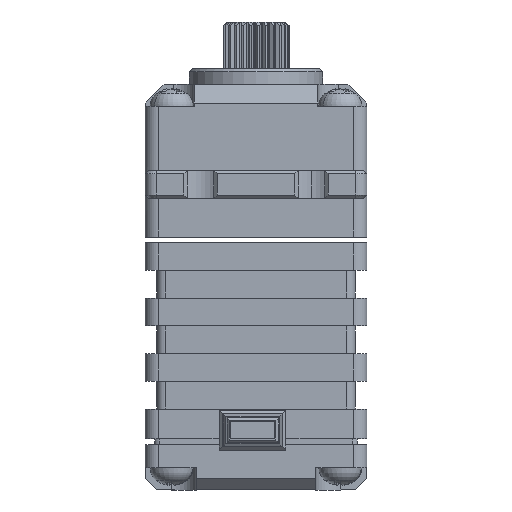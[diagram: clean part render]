
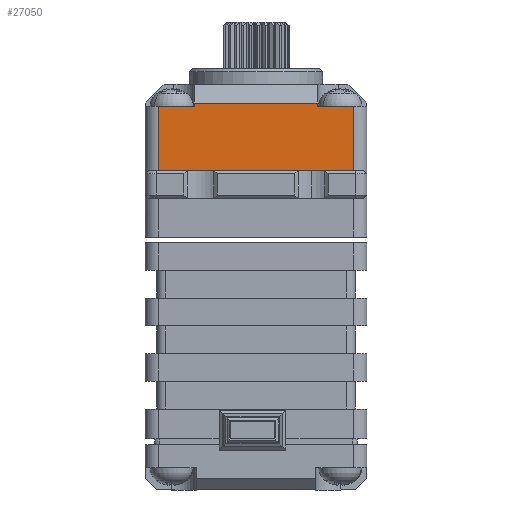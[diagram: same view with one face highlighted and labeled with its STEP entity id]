
A CAD part, left-side view. The second image highlights one B-rep face of the part: STEP entity #27050.
In plain terms, the highlighted planar face has unit normal (-1, 0, 0).
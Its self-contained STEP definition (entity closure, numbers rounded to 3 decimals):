
#28 = EDGE_CURVE ( 'NONE', #35702, #36346, #49660, .T. ) ;
#386 = EDGE_CURVE ( 'NONE', #30411, #19254, #58178, .T. ) ;
#1903 = CARTESIAN_POINT ( 'NONE',  ( -48.216, 6.948, 18.875 ) ) ;
#2316 = VERTEX_POINT ( 'NONE', #1903 ) ;
#2507 = VECTOR ( 'NONE', #46850, 1000. ) ;
#3004 = CARTESIAN_POINT ( 'NONE',  ( -48.216, -8.302, 13.075 ) ) ;
#3941 = DIRECTION ( 'NONE',  ( 0., -1., 0. ) ) ;
#4238 = VERTEX_POINT ( 'NONE', #17296 ) ;
#8505 = EDGE_CURVE ( 'NONE', #30411, #35702, #53903, .T. ) ;
#10201 = VERTEX_POINT ( 'NONE', #35118 ) ;
#10682 = VECTOR ( 'NONE', #15356, 1000. ) ;
#12335 = DIRECTION ( 'NONE',  ( -1., 0., 0. ) ) ;
#13819 = DIRECTION ( 'NONE',  ( 0., 1., 0. ) ) ;
#15285 = CARTESIAN_POINT ( 'NONE',  ( -48.216, 6.948, 18.875 ) ) ;
#15356 = DIRECTION ( 'NONE',  ( 0., 0., -1. ) ) ;
#16162 = LINE ( 'NONE', #15285, #2507 ) ;
#16462 = EDGE_CURVE ( 'NONE', #2316, #36346, #16162, .T. ) ;
#17296 = CARTESIAN_POINT ( 'NONE',  ( -48.216, 10.198, 18.875 ) ) ;
#17756 = ORIENTED_EDGE ( 'NONE', *, *, #16462, .F. ) ;
#17819 = LINE ( 'NONE', #29176, #10682 ) ;
#18853 = AXIS2_PLACEMENT_3D ( 'NONE', #39073, #12335, #53698 ) ;
#18912 = VERTEX_POINT ( 'NONE', #55498 ) ;
#19254 = VERTEX_POINT ( 'NONE', #32906 ) ;
#19427 = LINE ( 'NONE', #28438, #53948 ) ;
#20693 = LINE ( 'NONE', #3004, #33699 ) ;
#20860 = FACE_OUTER_BOUND ( 'NONE', #33174, .T. ) ;
#22169 = CARTESIAN_POINT ( 'NONE',  ( -48.216, 6.948, 19.168 ) ) ;
#23407 = EDGE_CURVE ( 'NONE', #4238, #10201, #17819, .T. ) ;
#25180 = VECTOR ( 'NONE', #41267, 1000. ) ;
#25189 = ORIENTED_EDGE ( 'NONE', *, *, #38239, .F. ) ;
#25704 = ORIENTED_EDGE ( 'NONE', *, *, #37780, .F. ) ;
#26593 = VECTOR ( 'NONE', #58066, 1000. ) ;
#27050 = ADVANCED_FACE ( 'NONE', ( #20860 ), #39887, .T. ) ;
#28438 = CARTESIAN_POINT ( 'NONE',  ( -48.216, -7.402, 18.875 ) ) ;
#28543 = LINE ( 'NONE', #31029, #39373 ) ;
#28849 = ORIENTED_EDGE ( 'NONE', *, *, #23407, .T. ) ;
#29176 = CARTESIAN_POINT ( 'NONE',  ( -48.216, 10.198, 19.168 ) ) ;
#30411 = VERTEX_POINT ( 'NONE', #51240 ) ;
#31029 = CARTESIAN_POINT ( 'NONE',  ( -48.216, -7.402, 12.125 ) ) ;
#32906 = CARTESIAN_POINT ( 'NONE',  ( -48.216, -7.402, 18.875 ) ) ;
#33174 = EDGE_LOOP ( 'NONE', ( #40745, #36193, #17756, #54066, #28849, #25704, #25189, #49833 ) ) ;
#33699 = VECTOR ( 'NONE', #45213, 1000. ) ;
#34435 = VECTOR ( 'NONE', #3941, 1000. ) ;
#35118 = CARTESIAN_POINT ( 'NONE',  ( -48.216, 10.198, 13.075 ) ) ;
#35486 = DIRECTION ( 'NONE',  ( 0., 0., -1. ) ) ;
#35702 = VERTEX_POINT ( 'NONE', #53017 ) ;
#36193 = ORIENTED_EDGE ( 'NONE', *, *, #28, .T. ) ;
#36346 = VERTEX_POINT ( 'NONE', #22169 ) ;
#37780 = EDGE_CURVE ( 'NONE', #18912, #10201, #20693, .T. ) ;
#38239 = EDGE_CURVE ( 'NONE', #19254, #18912, #28543, .T. ) ;
#39073 = CARTESIAN_POINT ( 'NONE',  ( -48.216, -7.402, 19.168 ) ) ;
#39373 = VECTOR ( 'NONE', #35486, 1000. ) ;
#39887 = PLANE ( 'NONE',  #18853 ) ;
#40745 = ORIENTED_EDGE ( 'NONE', *, *, #8505, .T. ) ;
#41267 = DIRECTION ( 'NONE',  ( 0., 1., 0. ) ) ;
#45148 = CARTESIAN_POINT ( 'NONE',  ( -48.216, -8.602, 18.875 ) ) ;
#45213 = DIRECTION ( 'NONE',  ( 0., 1., 0. ) ) ;
#46343 = EDGE_CURVE ( 'NONE', #2316, #4238, #19427, .T. ) ;
#46850 = DIRECTION ( 'NONE',  ( 0., 0., 1. ) ) ;
#49660 = LINE ( 'NONE', #54483, #25180 ) ;
#49833 = ORIENTED_EDGE ( 'NONE', *, *, #386, .F. ) ;
#51240 = CARTESIAN_POINT ( 'NONE',  ( -48.216, -4.152, 18.875 ) ) ;
#52640 = CARTESIAN_POINT ( 'NONE',  ( -48.216, -4.152, 19.168 ) ) ;
#53017 = CARTESIAN_POINT ( 'NONE',  ( -48.216, -4.152, 19.168 ) ) ;
#53698 = DIRECTION ( 'NONE',  ( 0., 0., 1. ) ) ;
#53903 = LINE ( 'NONE', #52640, #26593 ) ;
#53948 = VECTOR ( 'NONE', #13819, 1000. ) ;
#54066 = ORIENTED_EDGE ( 'NONE', *, *, #46343, .T. ) ;
#54483 = CARTESIAN_POINT ( 'NONE',  ( -48.216, -7.402, 19.168 ) ) ;
#55498 = CARTESIAN_POINT ( 'NONE',  ( -48.216, -7.402, 13.075 ) ) ;
#58066 = DIRECTION ( 'NONE',  ( 0., 0., 1. ) ) ;
#58178 = LINE ( 'NONE', #45148, #34435 ) ;
